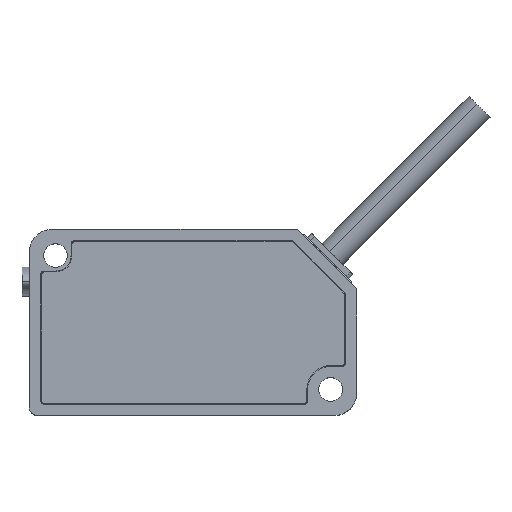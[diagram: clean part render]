
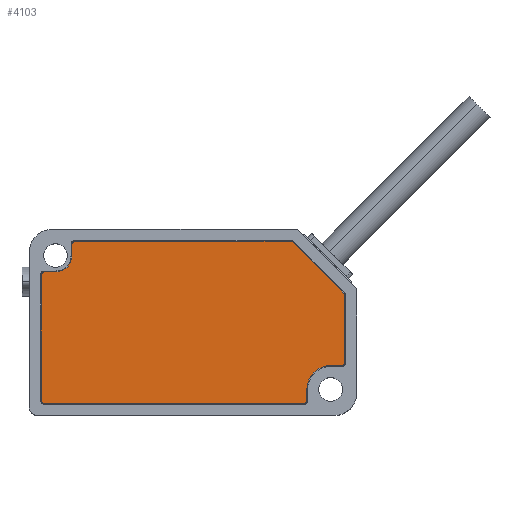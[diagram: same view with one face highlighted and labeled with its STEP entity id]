
A CAD part, top view. The second image highlights one B-rep face of the part: STEP entity #4103.
In plain terms, the highlighted planar face has unit normal (0, 0, 1).
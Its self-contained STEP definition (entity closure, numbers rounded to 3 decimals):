
#101 = VERTEX_POINT ( 'NONE', #633 ) ;
#158 = CARTESIAN_POINT ( 'NONE',  ( 20.283, 3.954, 1. ) ) ;
#214 = LINE ( 'NONE', #158, #1125 ) ;
#220 = CARTESIAN_POINT ( 'NONE',  ( -16.3, 10.4, 1. ) ) ;
#231 = VERTEX_POINT ( 'NONE', #4680 ) ;
#242 = CARTESIAN_POINT ( 'NONE',  ( 14.9, -10.9, 1. ) ) ;
#272 = ORIENTED_EDGE ( 'NONE', *, *, #1244, .T. ) ;
#302 = DIRECTION ( 'NONE',  ( 1., 0., 0. ) ) ;
#345 = VERTEX_POINT ( 'NONE', #4724 ) ;
#416 = AXIS2_PLACEMENT_3D ( 'NONE', #2239, #4402, #4920 ) ;
#439 = CARTESIAN_POINT ( 'NONE',  ( 18.5, -5.8, 1. ) ) ;
#628 = EDGE_CURVE ( 'NONE', #101, #5335, #2912, .T. ) ;
#633 = CARTESIAN_POINT ( 'NONE',  ( -20.4, 6.3, 1. ) ) ;
#634 = CIRCLE ( 'NONE', #6100, 0.4 ) ;
#643 = VERTEX_POINT ( 'NONE', #220 ) ;
#669 = DIRECTION ( 'NONE',  ( 1., 0., 0. ) ) ;
#671 = DIRECTION ( 'NONE',  ( 0., 0., 1. ) ) ;
#690 = CARTESIAN_POINT ( 'NONE',  ( -20., -10.9, 1. ) ) ;
#697 = CARTESIAN_POINT ( 'NONE',  ( -18.5, 9., 1. ) ) ;
#715 = CIRCLE ( 'NONE', #3974, 0.4 ) ;
#717 = DIRECTION ( 'NONE',  ( 1., 0., 0. ) ) ;
#727 = DIRECTION ( 'NONE',  ( 0., 1., 0. ) ) ;
#766 = ORIENTED_EDGE ( 'NONE', *, *, #4693, .T. ) ;
#778 = CARTESIAN_POINT ( 'NONE',  ( -19.9, 6.3, 1. ) ) ;
#795 = DIRECTION ( 'NONE',  ( 0., 0., 1. ) ) ;
#959 = EDGE_CURVE ( 'NONE', #1688, #345, #4694, .T. ) ;
#1085 = CIRCLE ( 'NONE', #3846, 0.4 ) ;
#1125 = VECTOR ( 'NONE', #1138, 1000. ) ;
#1138 = DIRECTION ( 'NONE',  ( -0.707, 0.707, 0. ) ) ;
#1164 = DIRECTION ( 'NONE',  ( 1., 0., 0. ) ) ;
#1173 = CARTESIAN_POINT ( 'NONE',  ( 15.3, -10.5, 1. ) ) ;
#1204 = CARTESIAN_POINT ( 'NONE',  ( 13.454, 10.783, 1. ) ) ;
#1244 = EDGE_CURVE ( 'NONE', #231, #643, #2991, .T. ) ;
#1259 = ORIENTED_EDGE ( 'NONE', *, *, #4163, .F. ) ;
#1263 = CARTESIAN_POINT ( 'NONE',  ( -20.4, -10.5, 1. ) ) ;
#1268 = DIRECTION ( 'NONE',  ( 1., 0., 0. ) ) ;
#1280 = LINE ( 'NONE', #2542, #1511 ) ;
#1293 = EDGE_CURVE ( 'NONE', #2791, #101, #5167, .T. ) ;
#1358 = CIRCLE ( 'NONE', #4354, 2.2 ) ;
#1360 = CARTESIAN_POINT ( 'NONE',  ( -18.5, 6.8, 1. ) ) ;
#1498 = VERTEX_POINT ( 'NONE', #3280 ) ;
#1511 = VECTOR ( 'NONE', #2675, 1000. ) ;
#1650 = VECTOR ( 'NONE', #3858, 1000. ) ;
#1678 = AXIS2_PLACEMENT_3D ( 'NONE', #3809, #2869, #2846 ) ;
#1688 = VERTEX_POINT ( 'NONE', #3223 ) ;
#1709 = AXIS2_PLACEMENT_3D ( 'NONE', #778, #4710, #1268 ) ;
#1745 = CIRCLE ( 'NONE', #416, 0.4 ) ;
#1746 = CARTESIAN_POINT ( 'NONE',  ( -20., -10.5, 1. ) ) ;
#1784 = ORIENTED_EDGE ( 'NONE', *, *, #3821, .F. ) ;
#1930 = VERTEX_POINT ( 'NONE', #5043 ) ;
#1956 = EDGE_CURVE ( 'NONE', #1930, #5646, #1745, .T. ) ;
#1977 = VECTOR ( 'NONE', #669, 1000. ) ;
#2029 = LINE ( 'NONE', #4876, #4740 ) ;
#2055 = DIRECTION ( 'NONE',  ( 1., 0., 0. ) ) ;
#2089 = EDGE_CURVE ( 'NONE', #2130, #5689, #1358, .T. ) ;
#2130 = VERTEX_POINT ( 'NONE', #1360 ) ;
#2219 = VERTEX_POINT ( 'NONE', #2807 ) ;
#2239 = CARTESIAN_POINT ( 'NONE',  ( 20., 3.672, 1. ) ) ;
#2265 = VECTOR ( 'NONE', #5485, 1000. ) ;
#2319 = VERTEX_POINT ( 'NONE', #5862 ) ;
#2355 = DIRECTION ( 'NONE',  ( 0., 1., 0. ) ) ;
#2462 = DIRECTION ( 'NONE',  ( 1., 0., 0. ) ) ;
#2520 = CARTESIAN_POINT ( 'NONE',  ( -16.3, 9., 1. ) ) ;
#2537 = EDGE_CURVE ( 'NONE', #2219, #231, #1280, .T. ) ;
#2542 = CARTESIAN_POINT ( 'NONE',  ( 13.172, 10.9, 1. ) ) ;
#2565 = ORIENTED_EDGE ( 'NONE', *, *, #4853, .T. ) ;
#2572 = EDGE_CURVE ( 'NONE', #5646, #5198, #214, .T. ) ;
#2596 = VECTOR ( 'NONE', #6149, 1000. ) ;
#2613 = EDGE_CURVE ( 'NONE', #4417, #3272, #3310, .T. ) ;
#2614 = CARTESIAN_POINT ( 'NONE',  ( -15.8, 10.4, 1. ) ) ;
#2640 = CARTESIAN_POINT ( 'NONE',  ( 13.172, 10.5, 1. ) ) ;
#2661 = LINE ( 'NONE', #439, #1650 ) ;
#2675 = DIRECTION ( 'NONE',  ( -1., 0., 0. ) ) ;
#2791 = VERTEX_POINT ( 'NONE', #4731 ) ;
#2807 = CARTESIAN_POINT ( 'NONE',  ( 13.172, 10.9, 1. ) ) ;
#2846 = DIRECTION ( 'NONE',  ( 1., 0., 0. ) ) ;
#2869 = DIRECTION ( 'NONE',  ( 0., 0., 1. ) ) ;
#2880 = CIRCLE ( 'NONE', #2882, 0.4 ) ;
#2882 = AXIS2_PLACEMENT_3D ( 'NONE', #5085, #671, #4073 ) ;
#2912 = LINE ( 'NONE', #4665, #2596 ) ;
#2963 = CARTESIAN_POINT ( 'NONE',  ( 18.5, -9., 1. ) ) ;
#2991 = CIRCLE ( 'NONE', #3565, 0.5 ) ;
#3015 = ORIENTED_EDGE ( 'NONE', *, *, #1956, .T. ) ;
#3026 = DIRECTION ( 'NONE',  ( 0., 0., 1. ) ) ;
#3082 = DIRECTION ( 'NONE',  ( 0., 0., 1. ) ) ;
#3133 = ORIENTED_EDGE ( 'NONE', *, *, #3571, .T. ) ;
#3181 = ORIENTED_EDGE ( 'NONE', *, *, #959, .T. ) ;
#3223 = CARTESIAN_POINT ( 'NONE',  ( 15.3, -10.5, 1. ) ) ;
#3272 = VERTEX_POINT ( 'NONE', #242 ) ;
#3280 = CARTESIAN_POINT ( 'NONE',  ( 20., -5.8, 1. ) ) ;
#3310 = LINE ( 'NONE', #3628, #1977 ) ;
#3319 = AXIS2_PLACEMENT_3D ( 'NONE', #2963, #3875, #2462 ) ;
#3330 = ORIENTED_EDGE ( 'NONE', *, *, #2089, .F. ) ;
#3524 = DIRECTION ( 'NONE',  ( 1., 0., 0. ) ) ;
#3565 = AXIS2_PLACEMENT_3D ( 'NONE', #2614, #6096, #4675 ) ;
#3571 = EDGE_CURVE ( 'NONE', #2319, #1498, #2661, .T. ) ;
#3628 = CARTESIAN_POINT ( 'NONE',  ( -20., -10.9, 1. ) ) ;
#3652 = EDGE_LOOP ( 'NONE', ( #1784, #3812, #4946, #6405, #6250, #3807, #3181, #4052, #3133, #4164, #2565, #3015, #5448, #766, #4256, #272, #1259, #3330 ) ) ;
#3764 = CARTESIAN_POINT ( 'NONE',  ( 20.4, -5.4, 1. ) ) ;
#3807 = ORIENTED_EDGE ( 'NONE', *, *, #4274, .T. ) ;
#3809 = CARTESIAN_POINT ( 'NONE',  ( -20., -10.5, 1. ) ) ;
#3812 = ORIENTED_EDGE ( 'NONE', *, *, #1293, .T. ) ;
#3821 = EDGE_CURVE ( 'NONE', #2791, #2130, #5696, .T. ) ;
#3830 = PLANE ( 'NONE',  #1678 ) ;
#3846 = AXIS2_PLACEMENT_3D ( 'NONE', #1746, #795, #302 ) ;
#3858 = DIRECTION ( 'NONE',  ( 1., 0., 0. ) ) ;
#3875 = DIRECTION ( 'NONE',  ( 0., 0., -1. ) ) ;
#3974 = AXIS2_PLACEMENT_3D ( 'NONE', #2640, #3082, #1164 ) ;
#4052 = ORIENTED_EDGE ( 'NONE', *, *, #4893, .T. ) ;
#4073 = DIRECTION ( 'NONE',  ( 1., 0., 0. ) ) ;
#4103 = ADVANCED_FACE ( 'NONE', ( #4141 ), #3830, .T. ) ;
#4141 = FACE_OUTER_BOUND ( 'NONE', #3652, .T. ) ;
#4163 = EDGE_CURVE ( 'NONE', #5689, #643, #2029, .T. ) ;
#4164 = ORIENTED_EDGE ( 'NONE', *, *, #5059, .T. ) ;
#4219 = VECTOR ( 'NONE', #2055, 1000. ) ;
#4256 = ORIENTED_EDGE ( 'NONE', *, *, #2537, .T. ) ;
#4274 = EDGE_CURVE ( 'NONE', #3272, #1688, #2880, .T. ) ;
#4354 = AXIS2_PLACEMENT_3D ( 'NONE', #697, #5710, #717 ) ;
#4402 = DIRECTION ( 'NONE',  ( 0., 0., 1. ) ) ;
#4417 = VERTEX_POINT ( 'NONE', #690 ) ;
#4499 = CIRCLE ( 'NONE', #3319, 3.2 ) ;
#4545 = CARTESIAN_POINT ( 'NONE',  ( -18.5, 6.8, 1. ) ) ;
#4665 = CARTESIAN_POINT ( 'NONE',  ( -20.4, 5.4, 1. ) ) ;
#4675 = DIRECTION ( 'NONE',  ( 1., 0., 0. ) ) ;
#4680 = CARTESIAN_POINT ( 'NONE',  ( -15.8, 10.9, 1. ) ) ;
#4693 = EDGE_CURVE ( 'NONE', #5198, #2219, #715, .T. ) ;
#4694 = LINE ( 'NONE', #1173, #4919 ) ;
#4710 = DIRECTION ( 'NONE',  ( 0., 0., 1. ) ) ;
#4724 = CARTESIAN_POINT ( 'NONE',  ( 15.3, -9., 1. ) ) ;
#4731 = CARTESIAN_POINT ( 'NONE',  ( -19.9, 6.8, 1. ) ) ;
#4740 = VECTOR ( 'NONE', #2355, 1000. ) ;
#4836 = CARTESIAN_POINT ( 'NONE',  ( 20.4, -5.4, 1. ) ) ;
#4853 = EDGE_CURVE ( 'NONE', #5288, #1930, #6231, .T. ) ;
#4876 = CARTESIAN_POINT ( 'NONE',  ( -16.3, 10.9, 1. ) ) ;
#4893 = EDGE_CURVE ( 'NONE', #345, #2319, #4499, .T. ) ;
#4919 = VECTOR ( 'NONE', #727, 1000. ) ;
#4920 = DIRECTION ( 'NONE',  ( 1., 0., 0. ) ) ;
#4946 = ORIENTED_EDGE ( 'NONE', *, *, #628, .T. ) ;
#5043 = CARTESIAN_POINT ( 'NONE',  ( 20.4, 3.672, 1. ) ) ;
#5059 = EDGE_CURVE ( 'NONE', #1498, #5288, #634, .T. ) ;
#5085 = CARTESIAN_POINT ( 'NONE',  ( 14.9, -10.5, 1. ) ) ;
#5167 = CIRCLE ( 'NONE', #1709, 0.5 ) ;
#5198 = VERTEX_POINT ( 'NONE', #1204 ) ;
#5279 = EDGE_CURVE ( 'NONE', #5335, #4417, #1085, .T. ) ;
#5288 = VERTEX_POINT ( 'NONE', #3764 ) ;
#5335 = VERTEX_POINT ( 'NONE', #1263 ) ;
#5448 = ORIENTED_EDGE ( 'NONE', *, *, #2572, .T. ) ;
#5485 = DIRECTION ( 'NONE',  ( 0., 1., 0. ) ) ;
#5646 = VERTEX_POINT ( 'NONE', #6390 ) ;
#5689 = VERTEX_POINT ( 'NONE', #2520 ) ;
#5696 = LINE ( 'NONE', #4545, #4219 ) ;
#5710 = DIRECTION ( 'NONE',  ( 0., 0., 1. ) ) ;
#5862 = CARTESIAN_POINT ( 'NONE',  ( 18.5, -5.8, 1. ) ) ;
#6003 = CARTESIAN_POINT ( 'NONE',  ( 20., -5.4, 1. ) ) ;
#6096 = DIRECTION ( 'NONE',  ( 0., 0., 1. ) ) ;
#6100 = AXIS2_PLACEMENT_3D ( 'NONE', #6003, #3026, #3524 ) ;
#6149 = DIRECTION ( 'NONE',  ( 0., -1., 0. ) ) ;
#6231 = LINE ( 'NONE', #4836, #2265 ) ;
#6250 = ORIENTED_EDGE ( 'NONE', *, *, #2613, .T. ) ;
#6390 = CARTESIAN_POINT ( 'NONE',  ( 20.283, 3.954, 1. ) ) ;
#6405 = ORIENTED_EDGE ( 'NONE', *, *, #5279, .T. ) ;
